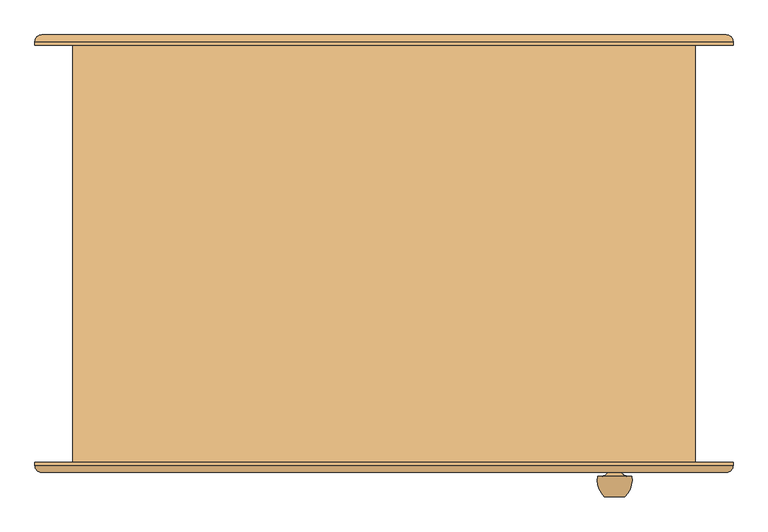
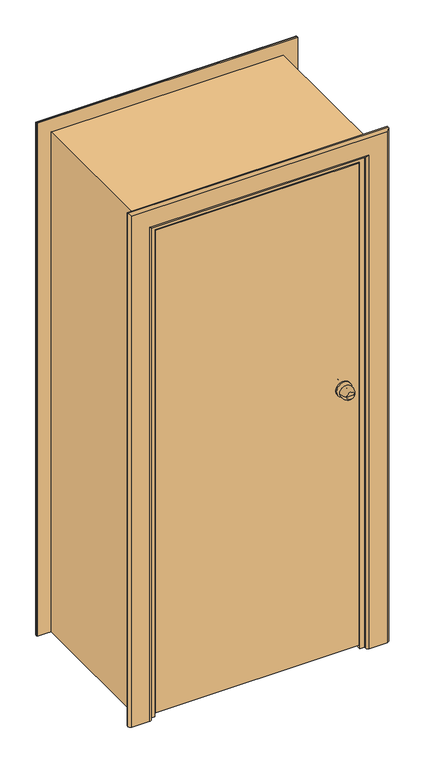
"""IFC4 building model written with IfcOpenShell, lengths in millimetres: door geometry, Внутренняя дверь 1-Навесная - 6629-88 : ДГ 21-9Л  ГОСТ 6629-88."""

from ifc_helpers import new_model, si_unit, point, frame, origin, place, context, project, spatial, polyline, circle_curve, ellipse_curve, trimmed, outline, extrude, faceted_brep, source, transform, mapped, element, save
from ifc_brep_helpers import plane_surface, cylinder_surface, revolved_surface, advanced_brep


def door_fa03cccf(model_context):
    return source(origin(), model_context, "Body", "SolidModel", [
        advanced_brep(
        [(352.0, -355.0, 1100.0), (322.0, -355.0, 1100.0), (337.0, -355.0, 1100.0), (362.0, -325.0, 1100.0), (312.0, -325.0, 1100.0), (355.0, -325.0, 1100.0), (319.0, -325.0, 1100.0), (347.0, -317.0, 1100.0), (327.0, -317.0, 1100.0), (347.0, -311.0, 1100.0), (327.0, -311.0, 1100.0), (307.0, -311.0, 1100.0), (367.0, -311.0, 1100.0), (307.0, -305.0, 1100.0), (367.0, -305.0, 1100.0)],
        [
            (0, 1, circle_curve(frame((337.0, -355.0, 1100.0), z_axis=(0.0, -1.0, 0.0), x_axis=(-1.0, 0.0, 0.0)), 15.0)),
            (1, 2),
            (2, 0),
            (1, 0, circle_curve(frame((337.0, -355.0, 1100.0), z_axis=(0.0, -1.0, 0.0), x_axis=(-1.0, 0.0, 0.0)), 15.0)),
            (0, 3, circle_curve(frame((327.3773735, -330.1257912, 1100.0), z_axis=(0.0, 0.0, 1.0), x_axis=(-1.0, 0.0, 0.0)), 35.0)),
            (3, 4, circle_curve(frame((337.0, -325.0, 1100.0), z_axis=(0.0, -1.0, 0.0), x_axis=(-1.0, 0.0, 0.0)), 25.0)),
            (4, 1, circle_curve(frame((346.6226265, -330.1257912, 1100.0), z_axis=(0.0, 0.0, 1.0), x_axis=(1.0, 0.0, 0.0)), 35.0)),
            (4, 3, circle_curve(frame((337.0, -325.0, 1100.0), z_axis=(0.0, -1.0, 0.0), x_axis=(-1.0, 0.0, 0.0)), 25.0)),
            (3, 5),
            (5, 6, circle_curve(frame((337.0, -325.0, 1100.0), z_axis=(0.0, -1.0, 0.0), x_axis=(-1.0, 0.0, 0.0)), 18.0)),
            (6, 4),
            (6, 5, circle_curve(frame((337.0, -325.0, 1100.0), z_axis=(0.0, -1.0, 0.0), x_axis=(-1.0, 0.0, 0.0)), 18.0)),
            (5, 7, circle_curve(frame((355.0, -317.0, 1100.0), z_axis=(0.0, 0.0, -1.0), x_axis=(-1.0, 0.0, 0.0)), 8.0)),
            (7, 8, circle_curve(frame((337.0, -317.0, 1100.0), z_axis=(0.0, -1.0, 0.0), x_axis=(-1.0, 0.0, 0.0)), 10.0)),
            (8, 6, circle_curve(frame((319.0, -317.0, 1100.0), z_axis=(0.0, 0.0, -1.0), x_axis=(1.0, 0.0, 0.0)), 8.0)),
            (8, 7, circle_curve(frame((337.0, -317.0, 1100.0), z_axis=(0.0, -1.0, 0.0), x_axis=(-1.0, 0.0, 0.0)), 10.0)),
            (7, 9),
            (9, 10, circle_curve(frame((337.0, -311.0, 1100.0), z_axis=(0.0, -1.0, 0.0), x_axis=(-1.0, 0.0, 0.0)), 10.0)),
            (10, 8),
            (10, 9, circle_curve(frame((337.0, -311.0, 1100.0), z_axis=(0.0, -1.0, 0.0), x_axis=(-1.0, 0.0, 0.0)), 10.0)),
            (11, 12, circle_curve(frame((337.0, -311.0, 1100.0), z_axis=(0.0, -1.0, 0.0), x_axis=(1.0, 0.0, 0.0)), 30.0)),
            (12, 11, circle_curve(frame((337.0, -311.0, 1100.0), z_axis=(0.0, -1.0, 0.0), x_axis=(1.0, 0.0, 0.0)), 30.0)),
            (13, 14, circle_curve(frame((337.0, -305.0, 1100.0), z_axis=(0.0, 1.0, 0.0), x_axis=(1.0, 0.0, 0.0)), 30.0)),
            (14, 13, circle_curve(frame((337.0, -305.0, 1100.0), z_axis=(0.0, 1.0, 0.0), x_axis=(1.0, 0.0, 0.0)), 30.0)),
            (11, 13),
            (14, 12),
        ],
        [
            plane_surface(frame((337.0, -355.0, 1100.0), z_axis=(0.0, -1.0, 0.0), x_axis=(-1.0, 0.0, 0.0))),
            revolved_surface(trimmed(ellipse_curve(frame((346.6226265, -330.1257912, 1100.0), z_axis=(0.0, 0.0, -1.0), x_axis=(1.0, 0.0, 0.0)), 35.0, 35.0), [point((322.0, -355.0, 1100.0))], [point((312.0, -325.0, 1100.0))], True, "CARTESIAN"), (337.0, -385.0, 1100.0), (0.0, 1.0, 0.0)),
            plane_surface(frame((337.0, -325.0, 1100.0), z_axis=(0.0, 1.0, 0.0), x_axis=(-1.0, 0.0, 0.0))),
            revolved_surface(trimmed(ellipse_curve(frame((319.0, -317.0, 1100.0), z_axis=(0.0, 0.0, 1.0), x_axis=(1.0, 0.0, 0.0)), 8.0, 8.0), [point((319.0, -325.0, 1100.0))], [point((327.0, -317.0, 1100.0))], True, "CARTESIAN"), (337.0, -385.0, 1100.0), (0.0, 1.0, 0.0)),
            cylinder_surface(frame((337.0, -385.0, 1100.0), z_axis=(0.0, 1.0, 0.0), x_axis=(-1.0, 0.0, 0.0)), 10.0),
            plane_surface(frame((367.0, -311.0, 1100.0), z_axis=(0.0, -1.0, 0.0), x_axis=(0.0, 0.0, 1.0))),
            plane_surface(frame((367.0, -305.0, 1100.0), z_axis=(0.0, 1.0, 0.0), x_axis=(0.0, 0.0, -1.0))),
            cylinder_surface(frame((337.0, -305.0, 1100.0), z_axis=(0.0, -1.0, 0.0), x_axis=(1.0, 0.0, 0.0)), 30.0),
        ],
        [
            (0, [[1, 2, 3]]),
            (0, [[-2, 4, -3]]),
            (1, [[-1, 5, 6, 7]]),
            (1, [[-4, -7, 8, -5]]),
            (2, [[-6, 9, 10, 11]]),
            (2, [[-8, -11, 12, -9]]),
            (3, [[-10, 13, 14, 15]]),
            (3, [[-12, -15, 16, -13]]),
            (4, [[-14, 17, 18, 19]]),
            (4, [[-16, -19, 20, -17]]),
            (5, [[21, 22], [-18, -20]]),
            (6, [[23, 24]]),
            (7, [[-21, 25, -24, 26]]),
            (7, [[-22, -26, -23, -25]]),
        ],
    ),
        advanced_brep(
        [(322.0, -218.0, 1100.0), (352.0, -218.0, 1100.0), (337.0, -218.0, 1100.0), (312.0, -248.0, 1100.0), (362.0, -248.0, 1100.0), (319.0, -248.0, 1100.0), (355.0, -248.0, 1100.0), (327.0, -256.0, 1100.0), (347.0, -256.0, 1100.0), (327.0, -262.0, 1100.0), (347.0, -262.0, 1100.0), (367.0, -262.0, 1100.0), (307.0, -262.0, 1100.0), (367.0, -268.0, 1100.0), (307.0, -268.0, 1100.0)],
        [
            (0, 1, circle_curve(frame((337.0, -218.0, 1100.0), z_axis=(0.0, 1.0, 0.0), x_axis=(1.0, 0.0, 0.0)), 15.0)),
            (1, 2),
            (2, 0),
            (1, 0, circle_curve(frame((337.0, -218.0, 1100.0), z_axis=(0.0, 1.0, 0.0), x_axis=(1.0, 0.0, 0.0)), 15.0)),
            (0, 3, circle_curve(frame((346.6226265, -242.8742088, 1100.0), z_axis=(0.0, 0.0, 1.0), x_axis=(1.0, 0.0, 0.0)), 35.0)),
            (3, 4, circle_curve(frame((337.0, -248.0, 1100.0), z_axis=(0.0, 1.0, 0.0), x_axis=(1.0, 0.0, 0.0)), 25.0)),
            (4, 1, circle_curve(frame((327.3773735, -242.8742088, 1100.0), z_axis=(0.0, 0.0, 1.0), x_axis=(-1.0, 0.0, 0.0)), 35.0)),
            (4, 3, circle_curve(frame((337.0, -248.0, 1100.0), z_axis=(0.0, 1.0, 0.0), x_axis=(1.0, 0.0, 0.0)), 25.0)),
            (3, 5),
            (5, 6, circle_curve(frame((337.0, -248.0, 1100.0), z_axis=(0.0, 1.0, 0.0), x_axis=(1.0, 0.0, 0.0)), 18.0)),
            (6, 4),
            (6, 5, circle_curve(frame((337.0, -248.0, 1100.0), z_axis=(0.0, 1.0, 0.0), x_axis=(1.0, 0.0, 0.0)), 18.0)),
            (5, 7, circle_curve(frame((319.0, -256.0, 1100.0), z_axis=(0.0, 0.0, -1.0), x_axis=(1.0, 0.0, 0.0)), 8.0)),
            (7, 8, circle_curve(frame((337.0, -256.0, 1100.0), z_axis=(0.0, 1.0, 0.0), x_axis=(1.0, 0.0, 0.0)), 10.0)),
            (8, 6, circle_curve(frame((355.0, -256.0, 1100.0), z_axis=(0.0, 0.0, -1.0), x_axis=(-1.0, 0.0, 0.0)), 8.0)),
            (8, 7, circle_curve(frame((337.0, -256.0, 1100.0), z_axis=(0.0, 1.0, 0.0), x_axis=(1.0, 0.0, 0.0)), 10.0)),
            (7, 9),
            (9, 10, circle_curve(frame((337.0, -262.0, 1100.0), z_axis=(0.0, 1.0, 0.0), x_axis=(1.0, 0.0, 0.0)), 10.0)),
            (10, 8),
            (10, 9, circle_curve(frame((337.0, -262.0, 1100.0), z_axis=(0.0, 1.0, 0.0), x_axis=(1.0, 0.0, 0.0)), 10.0)),
            (11, 12, circle_curve(frame((337.0, -262.0, 1100.0), z_axis=(0.0, 1.0, 0.0), x_axis=(-1.0, 0.0, 0.0)), 30.0)),
            (12, 11, circle_curve(frame((337.0, -262.0, 1100.0), z_axis=(0.0, 1.0, 0.0), x_axis=(-1.0, 0.0, 0.0)), 30.0)),
            (13, 14, circle_curve(frame((337.0, -268.0, 1100.0), z_axis=(0.0, -1.0, 0.0), x_axis=(-1.0, 0.0, 0.0)), 30.0)),
            (14, 13, circle_curve(frame((337.0, -268.0, 1100.0), z_axis=(0.0, -1.0, 0.0), x_axis=(-1.0, 0.0, 0.0)), 30.0)),
            (11, 13),
            (14, 12),
        ],
        [
            plane_surface(frame((337.0, -218.0, 1100.0), z_axis=(0.0, 1.0, 0.0), x_axis=(1.0, 0.0, 0.0))),
            revolved_surface(trimmed(ellipse_curve(frame((327.3773735, -242.8742088, 1100.0), z_axis=(0.0, 0.0, -1.0), x_axis=(-1.0, 0.0, 0.0)), 35.0, 35.0), [point((352.0, -218.0, 1100.0))], [point((362.0, -248.0, 1100.0))], True, "CARTESIAN"), (337.0, -188.0, 1100.0), (0.0, -1.0, 0.0)),
            plane_surface(frame((337.0, -248.0, 1100.0), z_axis=(0.0, -1.0, 0.0), x_axis=(1.0, 0.0, 0.0))),
            revolved_surface(trimmed(ellipse_curve(frame((355.0, -256.0, 1100.0), z_axis=(0.0, 0.0, 1.0), x_axis=(-1.0, 0.0, 0.0)), 8.0, 8.0), [point((355.0, -248.0, 1100.0))], [point((347.0, -256.0, 1100.0))], True, "CARTESIAN"), (337.0, -188.0, 1100.0), (0.0, -1.0, 0.0)),
            cylinder_surface(frame((337.0, -188.0, 1100.0), z_axis=(0.0, -1.0, 0.0), x_axis=(1.0, 0.0, 0.0)), 10.0),
            plane_surface(frame((307.0, -262.0, 1100.0), z_axis=(0.0, 1.0, 0.0), x_axis=(0.0, 0.0, 1.0))),
            plane_surface(frame((307.0, -268.0, 1100.0), z_axis=(0.0, -1.0, 0.0), x_axis=(0.0, 0.0, -1.0))),
            cylinder_surface(frame((337.0, -268.0, 1100.0), z_axis=(0.0, 1.0, 0.0), x_axis=(-1.0, 0.0, 0.0)), 30.0),
        ],
        [
            (0, [[1, 2, 3]]),
            (0, [[-2, 4, -3]]),
            (1, [[-1, 5, 6, 7]]),
            (1, [[-4, -7, 8, -5]]),
            (2, [[-6, 9, 10, 11]]),
            (2, [[-8, -11, 12, -9]]),
            (3, [[-10, 13, 14, 15]]),
            (3, [[-12, -15, 16, -13]]),
            (4, [[-14, 17, 18, 19]]),
            (4, [[-16, -19, 20, -17]]),
            (5, [[21, 22], [-18, -20]]),
            (6, [[23, 24]]),
            (7, [[-21, 25, -24, 26]]),
            (7, [[-22, -26, -23, -25]]),
        ],
    ),
        extrude(outline(polyline([(0.0, 420.0), (0.0, 435.0), (2050.0, 435.0), (2050.0, -435.0), (0.0, -435.0), (0.0, -420.0), (2035.0, -420.0), (2035.0, 420.0), (0.0, 420.0)])), frame((0.0, -231.0, 0.0), z_axis=(0.0, 1.0, 0.0), x_axis=(0.0, 0.0, 1.0)), (0.0, 0.0, 1.0), 536.0),
        advanced_brep(
        [(-510.0, -305.0, 0.0), (-420.0, -305.0, 0.0), (-420.0, -310.0, 0.0), (-430.0, -320.0, 0.0), (-500.0, -320.0, 0.0), (-510.0, -310.0, 0.0), (-510.0, -305.0, 2125.0), (510.0, -305.0, 2125.0), (510.0, -305.0, 0.0), (420.0, -305.0, 0.0), (420.0, -305.0, 2035.0), (-420.0, -305.0, 2035.0), (-420.0, -310.0, 2035.0), (-430.0, -320.0, 2045.0), (430.0, -320.0, 2045.0), (430.0, -320.0, 0.0), (500.0, -320.0, 0.0), (500.0, -320.0, 2115.0), (-500.0, -320.0, 2115.0), (-510.0, -310.0, 2125.0), (510.0, -310.0, 2125.0), (510.0, -310.0, 0.0), (420.0, -310.0, 0.0), (420.0, -310.0, 2035.0)],
        [
            (0, 1),
            (1, 2),
            (2, 3, circle_curve(frame((-430.0, -310.0, 0.0), z_axis=(0.0, 0.0, -1.0), x_axis=(-1.0, 0.0, 0.0)), 10.0)),
            (3, 4),
            (4, 5, circle_curve(frame((-500.0, -310.0, 0.0), z_axis=(0.0, 0.0, -1.0), x_axis=(-1.0, 0.0, 0.0)), 10.0)),
            (5, 0),
            (0, 6),
            (6, 7),
            (7, 8),
            (8, 9),
            (9, 10),
            (10, 11),
            (11, 1),
            (11, 12),
            (12, 2),
            (12, 13, ellipse_curve(frame((-430.0, -310.0, 2045.0), z_axis=(-0.7071067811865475, 0.0, -0.7071067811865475), x_axis=(0.7071067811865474, 0.0, -0.7071067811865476)), 14.1421356, 10.0)),
            (13, 3),
            (13, 14),
            (14, 15),
            (15, 16),
            (16, 17),
            (17, 18),
            (18, 4),
            (18, 19, ellipse_curve(frame((-500.0, -310.0, 2115.0), z_axis=(-0.7071067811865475, 0.0, -0.7071067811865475), x_axis=(0.7071067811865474, 0.0, -0.7071067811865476)), 14.1421356, 10.0)),
            (19, 5),
            (19, 6),
            (7, 20),
            (20, 21),
            (21, 8),
            (21, 16, circle_curve(frame((500.0, -310.0, 0.0), z_axis=(0.0, 0.0, -1.0), x_axis=(1.0, 0.0, 0.0)), 10.0)),
            (15, 22, circle_curve(frame((430.0, -310.0, 0.0), z_axis=(0.0, 0.0, -1.0), x_axis=(1.0, 0.0, 0.0)), 10.0)),
            (22, 9),
            (23, 10),
            (22, 23),
            (14, 23, ellipse_curve(frame((430.0, -310.0, 2045.0), z_axis=(0.7071067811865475, 0.0, -0.7071067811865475), x_axis=(0.7071067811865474, 0.0, 0.7071067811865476)), 14.1421356, 10.0)),
            (20, 17, ellipse_curve(frame((500.0, -310.0, 2115.0), z_axis=(0.7071067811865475, 0.0, -0.7071067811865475), x_axis=(0.7071067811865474, 0.0, 0.7071067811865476)), 14.1421356, 10.0)),
            (23, 12),
            (20, 19),
        ],
        [
            plane_surface(frame((-455.0, -305.0, 0.0), z_axis=(0.0, 0.0, -1.0), x_axis=(0.0, 1.0, 0.0))),
            plane_surface(frame((-510.0, -305.0, 0.0), z_axis=(0.0, 1.0, 0.0), x_axis=(0.0, 0.0, 1.0))),
            plane_surface(frame((-420.0, -305.0, 0.0), z_axis=(1.0, 0.0, 0.0), x_axis=(0.0, 0.0, 1.0))),
            cylinder_surface(frame((-430.0, -310.0, 0.0), z_axis=(0.0, 0.0, -1.0), x_axis=(-1.0, 0.0, 0.0)), 10.0),
            plane_surface(frame((-430.0, -320.0, 0.0), z_axis=(0.0, -1.0, 0.0), x_axis=(0.0, 0.0, 1.0))),
            cylinder_surface(frame((-500.0, -310.0, 0.0), z_axis=(0.0, 0.0, -1.0), x_axis=(-1.0, 0.0, 0.0)), 10.0),
            plane_surface(frame((-510.0, -310.0, 0.0), z_axis=(-1.0, 0.0, 0.0), x_axis=(0.0, 0.0, 1.0))),
            plane_surface(frame((510.0, -310.0, 2125.0), z_axis=(1.0, 0.0, 0.0), x_axis=(0.0, 0.0, -1.0))),
            plane_surface(frame((455.0, -305.0, 0.0), z_axis=(0.0, 0.0, -1.0), x_axis=(0.0, 1.0, 0.0))),
            plane_surface(frame((420.0, -305.0, 2035.0), z_axis=(-1.0, 0.0, 0.0), x_axis=(0.0, 0.0, -1.0))),
            cylinder_surface(frame((430.0, -310.0, 2070.0), z_axis=(0.0, 0.0, 1.0), x_axis=(1.0, 0.0, 0.0)), 10.0),
            cylinder_surface(frame((500.0, -310.0, 2070.0), z_axis=(0.0, 0.0, 1.0), x_axis=(1.0, 0.0, 0.0)), 10.0),
            plane_surface(frame((-420.0, -305.0, 2035.0), z_axis=(0.0, 0.0, -1.0), x_axis=(1.0, 0.0, 0.0))),
            cylinder_surface(frame((-455.0, -310.0, 2045.0), z_axis=(-1.0, 0.0, 0.0), x_axis=(0.0, 0.0, 1.0)), 10.0),
            cylinder_surface(frame((-455.0, -310.0, 2115.0), z_axis=(-1.0, 0.0, 0.0), x_axis=(0.0, 0.0, 1.0)), 10.0),
            plane_surface(frame((-510.0, -310.0, 2125.0), z_axis=(0.0, 0.0, 1.0), x_axis=(1.0, 0.0, 0.0))),
        ],
        [
            (0, [[1, 2, 3, 4, 5, 6]]),
            (1, [[-1, 7, 8, 9, 10, 11, 12, 13]]),
            (2, [[-2, -13, 14, 15]]),
            (3, [[-3, -15, 16, 17]]),
            (4, [[-4, -17, 18, 19, 20, 21, 22, 23]]),
            (5, [[-5, -23, 24, 25]]),
            (6, [[-6, -25, 26, -7]]),
            (7, [[27, 28, 29, -9]]),
            (8, [[-29, 30, -20, 31, 32, -10]]),
            (9, [[33, -11, -32, 34]]),
            (10, [[35, -34, -31, -19]]),
            (11, [[36, -21, -30, -28]]),
            (12, [[-14, -12, -33, 37]]),
            (13, [[-16, -37, -35, -18]]),
            (14, [[-24, -22, -36, 38]]),
            (15, [[-26, -38, -27, -8]]),
        ],
    ),
        advanced_brep(
        [(510.0, 305.0, 0.0), (420.0, 305.0, 0.0), (420.0, 310.0, 0.0), (430.0, 320.0, 0.0), (500.0, 320.0, 0.0), (510.0, 310.0, 0.0), (510.0, 305.0, 2125.0), (-510.0, 305.0, 2125.0), (-510.0, 305.0, 0.0), (-420.0, 305.0, 0.0), (-420.0, 305.0, 2035.0), (420.0, 305.0, 2035.0), (420.0, 310.0, 2035.0), (430.0, 320.0, 2045.0), (-430.0, 320.0, 2045.0), (-430.0, 320.0, 0.0), (-500.0, 320.0, 0.0), (-500.0, 320.0, 2115.0), (500.0, 320.0, 2115.0), (510.0, 310.0, 2125.0), (-510.0, 310.0, 2125.0), (-510.0, 310.0, 0.0), (-420.0, 310.0, 0.0), (-420.0, 310.0, 2035.0)],
        [
            (0, 1),
            (1, 2),
            (2, 3, circle_curve(frame((430.0, 310.0, 0.0), z_axis=(0.0, 0.0, -1.0), x_axis=(1.0, 0.0, 0.0)), 10.0)),
            (3, 4),
            (4, 5, circle_curve(frame((500.0, 310.0, 0.0), z_axis=(0.0, 0.0, -1.0), x_axis=(1.0, 0.0, 0.0)), 10.0)),
            (5, 0),
            (0, 6),
            (6, 7),
            (7, 8),
            (8, 9),
            (9, 10),
            (10, 11),
            (11, 1),
            (11, 12),
            (12, 2),
            (12, 13, ellipse_curve(frame((430.0, 310.0, 2045.0), z_axis=(0.7071067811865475, 0.0, -0.7071067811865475), x_axis=(-0.7071067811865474, 0.0, -0.7071067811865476)), 14.1421356, 10.0)),
            (13, 3),
            (13, 14),
            (14, 15),
            (15, 16),
            (16, 17),
            (17, 18),
            (18, 4),
            (18, 19, ellipse_curve(frame((500.0, 310.0, 2115.0), z_axis=(0.7071067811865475, 0.0, -0.7071067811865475), x_axis=(-0.7071067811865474, 0.0, -0.7071067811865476)), 14.1421356, 10.0)),
            (19, 5),
            (19, 6),
            (7, 20),
            (20, 21),
            (21, 8),
            (21, 16, circle_curve(frame((-500.0, 310.0, 0.0), z_axis=(0.0, 0.0, -1.0), x_axis=(-1.0, 0.0, 0.0)), 10.0)),
            (15, 22, circle_curve(frame((-430.0, 310.0, 0.0), z_axis=(0.0, 0.0, -1.0), x_axis=(-1.0, 0.0, 0.0)), 10.0)),
            (22, 9),
            (23, 10),
            (22, 23),
            (14, 23, ellipse_curve(frame((-430.0, 310.0, 2045.0), z_axis=(-0.7071067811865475, 0.0, -0.7071067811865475), x_axis=(-0.7071067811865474, 0.0, 0.7071067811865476)), 14.1421356, 10.0)),
            (20, 17, ellipse_curve(frame((-500.0, 310.0, 2115.0), z_axis=(-0.7071067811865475, 0.0, -0.7071067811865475), x_axis=(-0.7071067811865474, 0.0, 0.7071067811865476)), 14.1421356, 10.0)),
            (23, 12),
            (20, 19),
        ],
        [
            plane_surface(frame((455.0, 305.0, 0.0), z_axis=(0.0, 0.0, -1.0), x_axis=(0.0, -1.0, 0.0))),
            plane_surface(frame((510.0, 305.0, 0.0), z_axis=(0.0, -1.0, 0.0), x_axis=(0.0, 0.0, 1.0))),
            plane_surface(frame((420.0, 305.0, 0.0), z_axis=(-1.0, 0.0, 0.0), x_axis=(0.0, 0.0, 1.0))),
            cylinder_surface(frame((430.0, 310.0, 0.0), z_axis=(0.0, 0.0, -1.0), x_axis=(1.0, 0.0, 0.0)), 10.0),
            plane_surface(frame((430.0, 320.0, 0.0), z_axis=(0.0, 1.0, 0.0), x_axis=(0.0, 0.0, 1.0))),
            cylinder_surface(frame((500.0, 310.0, 0.0), z_axis=(0.0, 0.0, -1.0), x_axis=(1.0, 0.0, 0.0)), 10.0),
            plane_surface(frame((510.0, 310.0, 0.0), z_axis=(1.0, 0.0, 0.0), x_axis=(0.0, 0.0, 1.0))),
            plane_surface(frame((-510.0, 310.0, 2125.0), z_axis=(-1.0, 0.0, 0.0), x_axis=(0.0, 0.0, -1.0))),
            plane_surface(frame((-455.0, 305.0, 0.0), z_axis=(0.0, 0.0, -1.0), x_axis=(0.0, -1.0, 0.0))),
            plane_surface(frame((-420.0, 305.0, 2035.0), z_axis=(1.0, 0.0, 0.0), x_axis=(0.0, 0.0, -1.0))),
            cylinder_surface(frame((-430.0, 310.0, 2070.0), z_axis=(0.0, 0.0, 1.0), x_axis=(-1.0, 0.0, 0.0)), 10.0),
            cylinder_surface(frame((-500.0, 310.0, 2070.0), z_axis=(0.0, 0.0, 1.0), x_axis=(-1.0, 0.0, 0.0)), 10.0),
            plane_surface(frame((420.0, 305.0, 2035.0), z_axis=(0.0, 0.0, -1.0), x_axis=(-1.0, 0.0, 0.0))),
            cylinder_surface(frame((455.0, 310.0, 2045.0), z_axis=(1.0, 0.0, 0.0), x_axis=(0.0, 0.0, 1.0)), 10.0),
            cylinder_surface(frame((455.0, 310.0, 2115.0), z_axis=(1.0, 0.0, 0.0), x_axis=(0.0, 0.0, 1.0)), 10.0),
            plane_surface(frame((510.0, 310.0, 2125.0), z_axis=(0.0, 0.0, 1.0), x_axis=(-1.0, 0.0, 0.0))),
        ],
        [
            (0, [[1, 2, 3, 4, 5, 6]]),
            (1, [[-1, 7, 8, 9, 10, 11, 12, 13]]),
            (2, [[-2, -13, 14, 15]]),
            (3, [[-3, -15, 16, 17]]),
            (4, [[-4, -17, 18, 19, 20, 21, 22, 23]]),
            (5, [[-5, -23, 24, 25]]),
            (6, [[-6, -25, 26, -7]]),
            (7, [[27, 28, 29, -9]]),
            (8, [[-29, 30, -20, 31, 32, -10]]),
            (9, [[33, -11, -32, 34]]),
            (10, [[35, -34, -31, -19]]),
            (11, [[36, -21, -30, -28]]),
            (12, [[-14, -12, -33, 37]]),
            (13, [[-16, -37, -35, -18]]),
            (14, [[-24, -22, -36, 38]]),
            (15, [[-26, -38, -27, -8]]),
        ],
    ),
        faceted_brep([(390.0, -231.0, 0.0), (435.0, -231.0, 0.0), (435.0, -305.0, 0.0), (402.0, -305.0, 0.0), (402.0, -263.0, 0.0), (390.0, -263.0, 0.0), (390.0, -231.0, 2005.0), (-390.0, -231.0, 2005.0), (-390.0, -231.0, 0.0), (-435.0, -231.0, 0.0), (-435.0, -231.0, 2050.0), (435.0, -231.0, 2050.0), (435.0, -305.0, 2050.0), (-435.0, -305.0, 2050.0), (-435.0, -305.0, 0.0), (-402.0, -305.0, 0.0), (-402.0, -305.0, 2017.0), (402.0, -305.0, 2017.0), (402.0, -263.0, 2017.0), (-402.0, -263.0, 2017.0), (-402.0, -263.0, 0.0), (-390.0, -263.0, 0.0), (-390.0, -263.0, 2005.0), (390.0, -263.0, 2005.0)], [[[0, 1, 2, 3, 4, 5]], [[1, 0, 6, 7, 8, 9, 10, 11]], [[2, 1, 11, 12]], [[3, 2, 12, 13, 14, 15, 16, 17]], [[4, 3, 17, 18]], [[5, 4, 18, 19, 20, 21, 22, 23]], [[0, 5, 23, 6]], [[7, 22, 21, 8]], [[8, 21, 20, 15, 14, 9]], [[13, 10, 9, 14]], [[19, 16, 15, 20]], [[12, 11, 10, 13]], [[18, 17, 16, 19]], [[6, 23, 22, 7]]]),
        extrude(outline(polyline([(0.0, 435.0), (0.0, 455.0), (2070.0, 455.0), (2070.0, -455.0), (0.0, -455.0), (0.0, -435.0), (2050.0, -435.0), (2050.0, 435.0), (0.0, 435.0)])), frame((0.0, -305.0, 0.0), z_axis=(0.0, 1.0, 0.0), x_axis=(0.0, 0.0, 1.0)), (0.0, 0.0, 1.0), 610.0),
        extrude(outline(polyline([(397.0, -268.0), (397.0, -305.0), (-397.0, -305.0), (-397.0, -268.0), (397.0, -268.0)])), frame((0.0, 0.0, 15.0), z_axis=(0.0, 0.0, 1.0), x_axis=(1.0, 0.0, 0.0)), (0.0, 0.0, 1.0), 1997.0),
    ])


if __name__ == "__main__":
    model = new_model("IFC4")
    model_context = context("Model", 3, world=origin())
    ifc_project = project(units=[si_unit("LENGTHUNIT", "METRE", prefix="MILLI")], contexts=[model_context])
    site = spatial("IfcSite", under=ifc_project)
    building = spatial("IfcBuilding", under=site)
    placement = place(None, origin())
    door_shape = door_fa03cccf(model_context)
    element("IfcDoor", 1, ObjectType="Внутренняя дверь 1-Навесная - 6629-88 : ДГ 21-9Л  ГОСТ 6629-88", at=placement, inside=building, context=model_context, shape_type="MappedRepresentation", body=[
        mapped(door_shape, transform((0.0, 0.0, 0.0), x_axis=(1.0, 0.0, 0.0), y_axis=(0.0, 1.0, 0.0), z_axis=(0.0, 0.0, 1.0))),
    ])
    save(model, "model.ifc")
